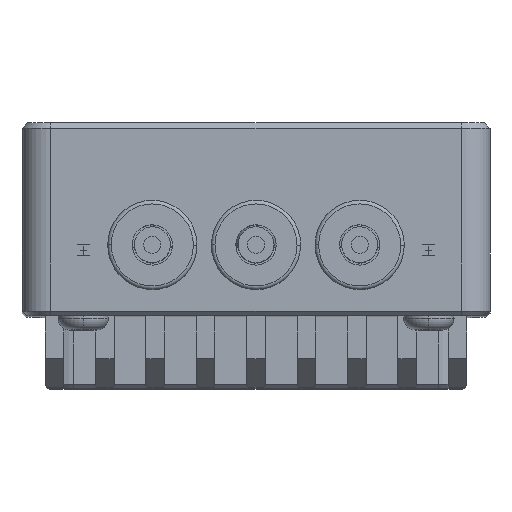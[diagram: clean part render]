
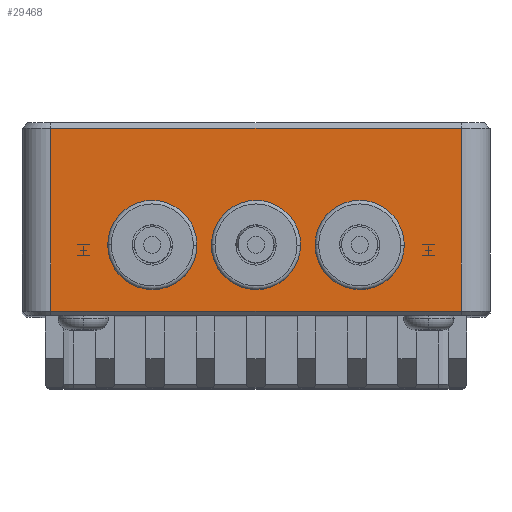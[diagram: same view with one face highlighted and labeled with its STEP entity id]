
A CAD part, top view. The second image highlights one B-rep face of the part: STEP entity #29468.
In plain terms, the highlighted planar face has unit normal (0, 0, 1).
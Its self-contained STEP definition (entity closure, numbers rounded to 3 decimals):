
#8990=DIRECTION('',(0.,1.,0.));
#8991=VECTOR('',#8990,12.7);
#8992=CARTESIAN_POINT('',(14.25,2.9,35.5));
#8993=LINE('',#8992,#8991);
#9008=DIRECTION('',(1.,0.,0.));
#9009=VECTOR('',#9008,28.5);
#9010=CARTESIAN_POINT('',(-14.25,15.6,35.5));
#9011=LINE('',#9010,#9009);
#9012=DIRECTION('',(-1.,0.,0.));
#9013=VECTOR('',#9012,28.5);
#9014=CARTESIAN_POINT('',(14.25,2.9,35.5));
#9015=LINE('',#9014,#9013);
#9016=CARTESIAN_POINT('',(7.2,7.5,35.5));
#9017=DIRECTION('',(0.,0.,-1.));
#9018=DIRECTION('',(-1.,0.009,0.));
#9019=AXIS2_PLACEMENT_3D('',#9016,#9017,#9018);
#9021=CARTESIAN_POINT('',(7.2,7.5,35.5));
#9022=DIRECTION('',(0.,0.,-1.));
#9023=DIRECTION('',(1.,-0.009,0.));
#9024=AXIS2_PLACEMENT_3D('',#9021,#9022,#9023);
#9026=CARTESIAN_POINT('',(0.,7.5,35.5));
#9027=DIRECTION('',(0.,0.,-1.));
#9028=DIRECTION('',(-1.,0.009,0.));
#9029=AXIS2_PLACEMENT_3D('',#9026,#9027,#9028);
#9031=CARTESIAN_POINT('',(0.,7.5,35.5));
#9032=DIRECTION('',(0.,0.,-1.));
#9033=DIRECTION('',(1.,-0.009,0.));
#9034=AXIS2_PLACEMENT_3D('',#9031,#9032,#9033);
#9036=CARTESIAN_POINT('',(-7.2,7.5,35.5));
#9037=DIRECTION('',(0.,0.,-1.));
#9038=DIRECTION('',(-1.,0.009,0.));
#9039=AXIS2_PLACEMENT_3D('',#9036,#9037,#9038);
#9041=CARTESIAN_POINT('',(-7.2,7.5,35.5));
#9042=DIRECTION('',(0.,0.,-1.));
#9043=DIRECTION('',(1.,-0.009,0.));
#9044=AXIS2_PLACEMENT_3D('',#9041,#9042,#9043);
#9055=DIRECTION('',(0.,-1.,0.));
#9056=VECTOR('',#9055,12.7);
#9057=CARTESIAN_POINT('',(-14.25,15.6,35.5));
#9058=LINE('',#9057,#9056);
#15782=CARTESIAN_POINT('',(14.25,2.9,35.5));
#15784=VERTEX_POINT('',#15782);
#15785=CARTESIAN_POINT('',(-14.25,2.9,
35.5));
#15786=VERTEX_POINT('',#15785);
#16856=CARTESIAN_POINT('',(-14.25,15.6,35.5));
#16858=VERTEX_POINT('',#16856);
#16861=CARTESIAN_POINT('',(14.25,15.6,35.5));
#16862=VERTEX_POINT('',#16861);
#18061=CARTESIAN_POINT('',(4.1,7.528,35.5));
#18062=CARTESIAN_POINT('',(10.3,7.472,35.5));
#18063=VERTEX_POINT('',#18061);
#18064=VERTEX_POINT('',#18062);
#18106=CARTESIAN_POINT('',(-3.1,7.528,35.5));
#18107=CARTESIAN_POINT('',(3.1,7.472,35.5));
#18108=VERTEX_POINT('',#18106);
#18109=VERTEX_POINT('',#18107);
#18122=CARTESIAN_POINT('',(-10.3,7.528,35.5));
#18123=CARTESIAN_POINT('',(-4.1,7.472,35.5));
#18124=VERTEX_POINT('',#18122);
#18125=VERTEX_POINT('',#18123);
#29437=CARTESIAN_POINT('',(-16.25,0.,35.5));
#29438=DIRECTION('',(0.,0.,1.));
#29439=DIRECTION('',(1.,0.,0.));
#29440=AXIS2_PLACEMENT_3D('',#29437,#29438,#29439);
#29441=PLANE('',#29440);
#29443=ORIENTED_EDGE('',*,*,#29442,.F.);
#29445=ORIENTED_EDGE('',*,*,#29444,.T.);
#29446=ORIENTED_EDGE('',*,*,#29427,.F.);
#29447=ORIENTED_EDGE('',*,*,#23548,.T.);
#29448=EDGE_LOOP('',(#29443,#29445,#29446,#29447));
#29449=FACE_OUTER_BOUND('',#29448,.F.);
#29451=ORIENTED_EDGE('',*,*,#29450,.F.);
#29453=ORIENTED_EDGE('',*,*,#29452,.F.);
#29454=EDGE_LOOP('',(#29451,#29453));
#29455=FACE_BOUND('',#29454,.F.);
#29457=ORIENTED_EDGE('',*,*,#29456,.F.);
#29459=ORIENTED_EDGE('',*,*,#29458,.F.);
#29460=EDGE_LOOP('',(#29457,#29459));
#29461=FACE_BOUND('',#29460,.F.);
#29463=ORIENTED_EDGE('',*,*,#29462,.F.);
#29465=ORIENTED_EDGE('',*,*,#29464,.F.);
#29466=EDGE_LOOP('',(#29463,#29465));
#29467=FACE_BOUND('',#29466,.F.);
#29468=ADVANCED_FACE('',(#29449,#29455,#29461,#29467),#29441,.T.);
#9020=CIRCLE('',#9019,3.1);
#9025=CIRCLE('',#9024,3.1);
#9030=CIRCLE('',#9029,3.1);
#9035=CIRCLE('',#9034,3.1);
#9040=CIRCLE('',#9039,3.1);
#9045=CIRCLE('',#9044,3.1);
#23548=EDGE_CURVE('',#15784,#15786,#9015,.T.);
#29427=EDGE_CURVE('',#15784,#16862,#8993,.T.);
#29442=EDGE_CURVE('',#16858,#15786,#9058,.T.);
#29444=EDGE_CURVE('',#16858,#16862,#9011,.T.);
#29450=EDGE_CURVE('',#18063,#18064,#9020,.T.);
#29452=EDGE_CURVE('',#18064,#18063,#9025,.T.);
#29456=EDGE_CURVE('',#18108,#18109,#9030,.T.);
#29458=EDGE_CURVE('',#18109,#18108,#9035,.T.);
#29462=EDGE_CURVE('',#18124,#18125,#9040,.T.);
#29464=EDGE_CURVE('',#18125,#18124,#9045,.T.);
